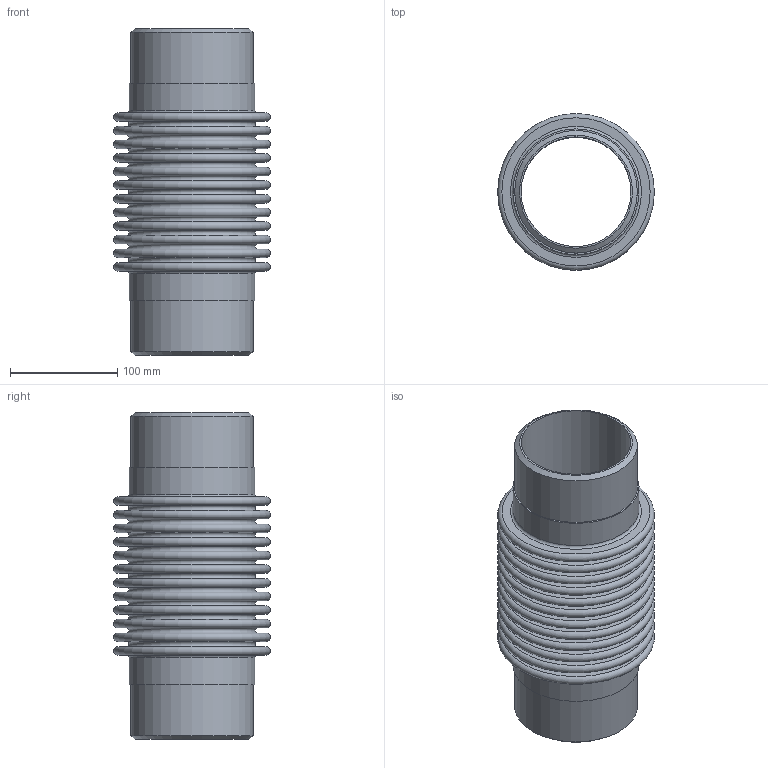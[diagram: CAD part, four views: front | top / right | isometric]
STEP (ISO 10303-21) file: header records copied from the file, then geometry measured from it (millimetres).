
FILE_DESCRIPTION(/* description */ ('EXPANSION JOINT,SINGLE, WELD ENDS,4 INCH NOMINAL'),/* implementation_level */ '2;1');
FILE_NAME(/* name */ 'ASSEMBLY US-4-12-300L.stp',/* time_stamp */ '2026-07-28T15:48:27-05:00',/* author */ ('jorgef'),/* organization */ (''),/* preprocessor_version */ 'ST-DEVELOPER v20.1',/* originating_system */ 'Autodesk Inventor 2026',/* authorisation */ '');
FILE_SCHEMA (('AUTOMOTIVE_DESIGN { 1 0 10303 214 3 1 1 }'));
Length unit declared in the file: inch
Products named in the file (3): ASSEMBLY  US-4-12-300L; STOCK BELLOW - US-4-12-300L; PIPE- US-4-12-300L
Assembly tree (3 placements, depth 2):
  ASSEMBLY  US-4-12-300L
    STOCK BELLOW - US-4-12-300L
    PIPE- US-4-12-300L  x2
Bounding box: 146.05 x 146.05 x 304.8 mm (x, y, z)
Volume: 603856.1 mm3; surface area: 503385.5 mm2
Topology: 5 solids, 5 shells, 118 faces, 180 edges, 121 vertices
Faces by surface type: plane 58, torus 50, cylinder 8, cone 2
Full cylindrical faces by diameter (mm): 102.26 x2, 114.3 x4, 117.348 x2
Entity records: 2769 total; most frequent: DIRECTION 573, CARTESIAN_POINT 405, ORIENTED_EDGE 342, AXIS2_PLACEMENT_3D 283, EDGE_CURVE 171, EDGE_LOOP 169, CIRCLE 164, VERTEX_POINT 114
